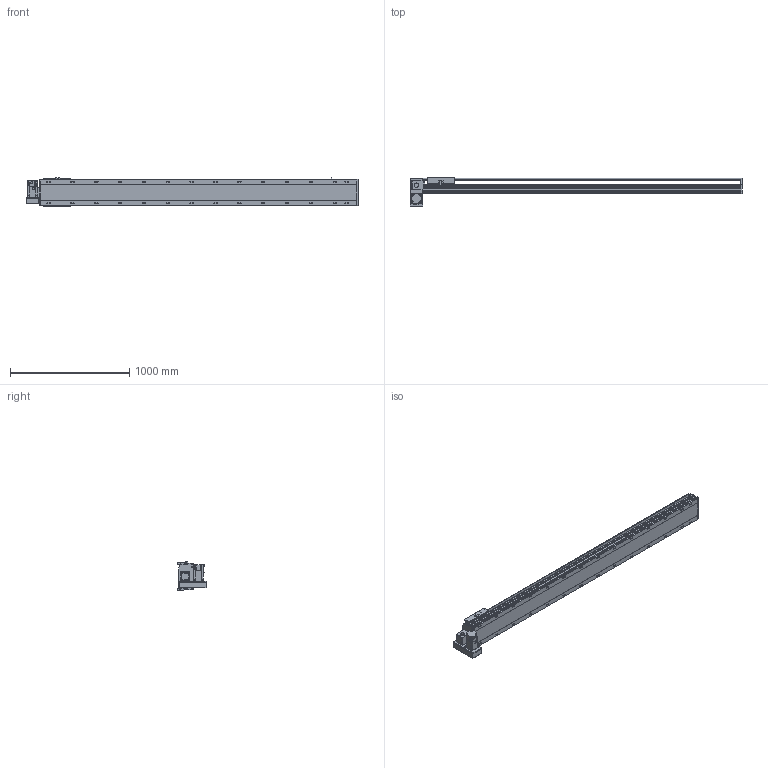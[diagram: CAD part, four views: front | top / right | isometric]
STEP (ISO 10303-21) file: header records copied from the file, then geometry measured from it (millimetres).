
FILE_DESCRIPTION(/* description */ ('STEP AP214'),/* implementation_level */ '2;1');
FILE_NAME(/* name */ 'PBS220-P40-S2300-LD-T75-C1-N(0)',/* time_stamp */ '2022-06-27T09:45:59+02:00',/* author */ ('License CC BY-ND 4.0'),/* organization */ ('CADENAS'),/* preprocessor_version */ 'ST-DEVELOPER v18.102',/* originating_system */ 'PARTsolutions',/* authorisation */ ' ');
FILE_SCHEMA (('AUTOMOTIVE_DESIGN {1 0 10303 214 3 1 1}'));
Length unit declared in the file: millimetre
Products named in the file (7): PBS220-P40-S2300-LD-T75-C1-N(0); PBS220_sensor; PBS220_plant; PBS220_sliser; T75-p1; PBS220T-LD_motors; PBS220-S2300()_body
Assembly tree (8 placements, depth 2):
  PBS220-P40-S2300-LD-T75-C1-N(0)
    PBS220_sensor  x3
    PBS220_plant
    PBS220_sliser
    T75-p1
    PBS220T-LD_motors
    PBS220-S2300()_body
Bounding box: 2784 x 239 x 238.5 mm (x, y, z)
Volume: 38962591.1 mm3; surface area: 3590953.4 mm2
Topology: 8 solids, 8 shells, 986 faces, 2564 edges, 1666 vertices
Faces by surface type: plane 622, cylinder 312, cone 52
Full cylindrical faces by diameter (mm): 2.013 x4, 4.5 x14, 4.917 x4, 6 x7, 6.647 x8, 8 x10, 8.376 x28, 8.5 x28, 10 x6, 14 x28, 38 x2, 40 x1, 70 x1
Entity records: 27500 total; most frequent: CARTESIAN_POINT 4888, DIRECTION 4779, ORIENTED_EDGE 4322, EDGE_CURVE 2161, AXIS2_PLACEMENT_3D 1711, VERTEX_POINT 1512, LINE 1357, VECTOR 1357
